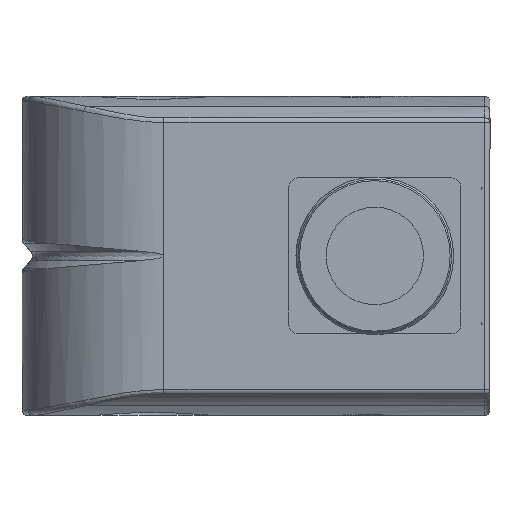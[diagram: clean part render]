
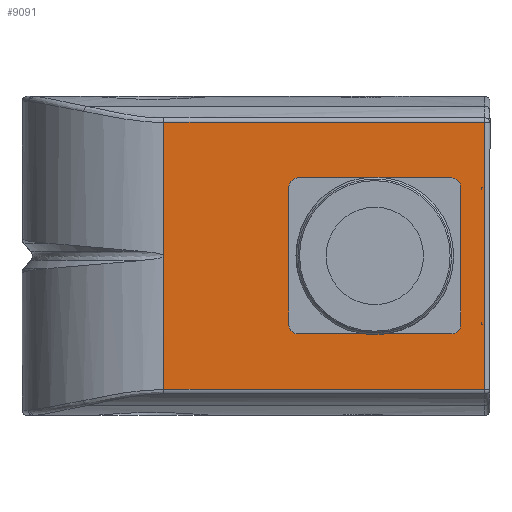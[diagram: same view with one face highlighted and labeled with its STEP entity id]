
A CAD part, left-side view. The second image highlights one B-rep face of the part: STEP entity #9091.
In plain terms, the highlighted planar face has unit normal (-1, 0, 0).
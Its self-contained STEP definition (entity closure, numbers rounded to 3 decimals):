
#915=CARTESIAN_POINT('',(-31.261,3.429,-13.78));
#916=VERTEX_POINT('',#915);
#917=CARTESIAN_POINT('',(-31.261,3.429,-5.98));
#918=VERTEX_POINT('',#917);
#919=CARTESIAN_POINT('',(-31.261,3.429,-13.78));
#920=DIRECTION('',(0.0,0.0,1.0));
#921=VECTOR('',#920,7.8);
#922=LINE('',#919,#921);
#923=EDGE_CURVE('',#916,#918,#922,.T.);
#957=CARTESIAN_POINT('',(-31.261,-6.271,-5.98));
#958=VERTEX_POINT('',#957);
#973=CARTESIAN_POINT('',(-31.261,-6.271,-13.78));
#974=VERTEX_POINT('',#973);
#981=CARTESIAN_POINT('',(-31.261,-6.271,-5.98));
#982=DIRECTION('',(0.0,0.0,-1.0));
#983=VECTOR('',#982,7.8);
#984=LINE('',#981,#983);
#985=EDGE_CURVE('',#958,#974,#984,.T.);
#1058=CARTESIAN_POINT('',(-31.261,2.929,-5.48));
#1059=VERTEX_POINT('',#1058);
#1066=CARTESIAN_POINT('',(-31.261,2.929,-5.98));
#1067=DIRECTION('',(1.0,0.0,0.0));
#1068=DIRECTION('',(0.0,-1.0,0.0));
#1069=AXIS2_PLACEMENT_3D('',#1066,#1067,#1068);
#1070=CIRCLE('',#1069,0.5);
#1071=EDGE_CURVE('',#918,#1059,#1070,.T.);
#1082=CARTESIAN_POINT('',(-31.261,-5.771,-5.48));
#1083=VERTEX_POINT('',#1082);
#1084=CARTESIAN_POINT('',(-31.261,-5.771,-5.98));
#1085=DIRECTION('',(1.0,0.0,0.0));
#1086=DIRECTION('',(0.0,-1.0,0.0));
#1087=AXIS2_PLACEMENT_3D('',#1084,#1085,#1086);
#1088=CIRCLE('',#1087,0.5);
#1089=EDGE_CURVE('',#1083,#958,#1088,.T.);
#1106=CARTESIAN_POINT('',(-31.261,2.929,-5.48));
#1107=DIRECTION('',(0.0,-1.0,0.0));
#1108=VECTOR('',#1107,8.7);
#1109=LINE('',#1106,#1108);
#1110=EDGE_CURVE('',#1059,#1083,#1109,.T.);
#1123=CARTESIAN_POINT('',(-31.261,2.929,-14.28));
#1124=VERTEX_POINT('',#1123);
#1133=CARTESIAN_POINT('',(-31.261,2.929,-13.78));
#1134=DIRECTION('',(1.0,0.0,0.0));
#1135=DIRECTION('',(0.0,-1.0,0.0));
#1136=AXIS2_PLACEMENT_3D('',#1133,#1134,#1135);
#1137=CIRCLE('',#1136,0.5);
#1138=EDGE_CURVE('',#1124,#916,#1137,.T.);
#1150=CARTESIAN_POINT('',(-31.261,-5.771,-14.28));
#1151=VERTEX_POINT('',#1150);
#1158=CARTESIAN_POINT('',(-31.261,-5.771,-13.78));
#1159=DIRECTION('',(1.0,0.0,0.0));
#1160=DIRECTION('',(0.0,-1.0,0.0));
#1161=AXIS2_PLACEMENT_3D('',#1158,#1159,#1160);
#1162=CIRCLE('',#1161,0.5);
#1163=EDGE_CURVE('',#974,#1151,#1162,.T.);
#1174=CARTESIAN_POINT('',(-31.261,-5.771,-14.28));
#1175=DIRECTION('',(0.0,1.0,0.0));
#1176=VECTOR('',#1175,8.7);
#1177=LINE('',#1174,#1176);
#1178=EDGE_CURVE('',#1151,#1124,#1177,.T.);
#2442=CARTESIAN_POINT('',(-31.261,-7.421,-6.116));
#2443=VERTEX_POINT('',#2442);
#2526=CARTESIAN_POINT('',(-31.261,-7.421,-13.644));
#2527=VERTEX_POINT('',#2526);
#2534=CARTESIAN_POINT('',(-31.261,-7.421,-13.744));
#2535=VERTEX_POINT('',#2534);
#2536=CARTESIAN_POINT('',(-31.261,-7.421,-13.644));
#2537=DIRECTION('',(0.0,0.0,-1.0));
#2538=VECTOR('',#2537,0.1);
#2539=LINE('',#2536,#2538);
#2540=EDGE_CURVE('',#2535,#2527,#2539,.F.);
#2626=CARTESIAN_POINT('',(-31.261,-7.421,-6.016));
#2627=VERTEX_POINT('',#2626);
#2634=CARTESIAN_POINT('',(-31.261,-7.421,-6.016));
#2635=DIRECTION('',(0.0,0.0,-1.0));
#2636=VECTOR('',#2635,0.1);
#2637=LINE('',#2634,#2636);
#2638=EDGE_CURVE('',#2443,#2627,#2637,.F.);
#2650=CARTESIAN_POINT('',(-31.261,-7.521,-13.744));
#2651=VERTEX_POINT('',#2650);
#2665=CARTESIAN_POINT('',(-31.261,-7.521,-13.744));
#2666=DIRECTION('',(0.0,1.0,0.0));
#2667=VECTOR('',#2666,0.1);
#2668=LINE('',#2665,#2667);
#2669=EDGE_CURVE('',#2651,#2535,#2668,.T.);
#5303=CARTESIAN_POINT('',(-31.261,-7.621,-2.342));
#5304=VERTEX_POINT('',#5303);
#5419=CARTESIAN_POINT('',(-31.261,-7.621,-17.419));
#5420=VERTEX_POINT('',#5419);
#5443=CARTESIAN_POINT('',(-31.261,10.479,-17.419));
#5444=VERTEX_POINT('',#5443);
#5461=CARTESIAN_POINT('',(-31.261,-7.621,-17.419));
#5462=DIRECTION('',(0.0,1.0,0.0));
#5463=VECTOR('',#5462,18.1);
#5464=LINE('',#5461,#5463);
#5465=EDGE_CURVE('',#5420,#5444,#5464,.T.);
#6331=CARTESIAN_POINT('',(-31.261,10.479,-2.342));
#6332=VERTEX_POINT('',#6331);
#6340=CARTESIAN_POINT('',(-31.261,10.479,-2.342));
#6341=DIRECTION('',(0.0,-1.0,0.0));
#6342=VECTOR('',#6341,18.1);
#6343=LINE('',#6340,#6342);
#6344=EDGE_CURVE('',#6332,#5304,#6343,.T.);
#6555=CARTESIAN_POINT('',(-31.261,10.479,-9.896));
#6556=VERTEX_POINT('',#6555);
#6557=CARTESIAN_POINT('',(-31.261,10.479,-17.419));
#6558=DIRECTION('',(0.0,0.0,1.0));
#6559=VECTOR('',#6558,7.523);
#6560=LINE('',#6557,#6559);
#6561=EDGE_CURVE('',#5444,#6556,#6560,.T.);
#6613=CARTESIAN_POINT('',(-31.261,-7.521,-6.016));
#6614=VERTEX_POINT('',#6613);
#6623=CARTESIAN_POINT('',(-31.261,-7.421,-6.016));
#6624=DIRECTION('',(0.0,-1.0,0.0));
#6625=VECTOR('',#6624,0.1);
#6626=LINE('',#6623,#6625);
#6627=EDGE_CURVE('',#2627,#6614,#6626,.T.);
#6681=CARTESIAN_POINT('',(-31.261,10.479,-9.865));
#6682=VERTEX_POINT('',#6681);
#6698=CARTESIAN_POINT('',(-31.261,10.479,-9.865));
#6699=DIRECTION('',(0.0,0.0,1.0));
#6700=VECTOR('',#6699,7.523);
#6701=LINE('',#6698,#6700);
#6702=EDGE_CURVE('',#6682,#6332,#6701,.T.);
#7412=CARTESIAN_POINT('',(-31.261,10.479,-9.865));
#7413=CARTESIAN_POINT('',(-31.261,10.478,-9.866));
#7414=CARTESIAN_POINT('',(-31.261,10.478,-9.867));
#7415=CARTESIAN_POINT('',(-31.261,10.476,-9.872));
#7416=CARTESIAN_POINT('',(-31.261,10.475,-9.876));
#7417=CARTESIAN_POINT('',(-31.261,10.475,-9.884));
#7418=CARTESIAN_POINT('',(-31.261,10.476,-9.889));
#7419=CARTESIAN_POINT('',(-31.261,10.478,-9.894));
#7420=CARTESIAN_POINT('',(-31.261,10.478,-9.895));
#7421=CARTESIAN_POINT('',(-31.261,10.479,-9.896));
#7422=B_SPLINE_CURVE_WITH_KNOTS('',3,(#7412,#7413,#7414,#7415,#7416,#7417,#7418,#7419,#7420,#7421),.UNSPECIFIED.,.F.,.U.,(4,2,2,2,4),(0.313,0.313,0.314,0.316,0.316),.UNSPECIFIED.);
#7423=EDGE_CURVE('',#6682,#6556,#7422,.T.);
#8829=CARTESIAN_POINT('',(-31.261,-7.621,-2.342));
#8830=DIRECTION('',(0.0,0.0,-1.0));
#8831=VECTOR('',#8830,15.077);
#8832=LINE('',#8829,#8831);
#8833=EDGE_CURVE('',#5304,#5420,#8832,.T.);
#8871=CARTESIAN_POINT('',(-31.261,-7.521,-13.744));
#8872=DIRECTION('',(0.0,0.707,0.707));
#8873=VECTOR('',#8872,0.141);
#8874=LINE('',#8871,#8873);
#8875=EDGE_CURVE('',#2651,#2527,#8874,.T.);
#9046=CARTESIAN_POINT('',(-31.261,-7.421,-6.116));
#9047=DIRECTION('',(0.0,-0.707,0.707));
#9048=VECTOR('',#9047,0.141);
#9049=LINE('',#9046,#9048);
#9050=EDGE_CURVE('',#2443,#6614,#9049,.T.);
#9058=CARTESIAN_POINT('',(-31.261,-7.921,-2.48));
#9059=DIRECTION('',(-1.0,0.0,0.0));
#9060=DIRECTION('',(0.0,1.0,0.0));
#9061=AXIS2_PLACEMENT_3D('',#9058,#9059,#9060);
#9062=PLANE('',#9061);
#9063=ORIENTED_EDGE('',*,*,#8833,.F.);
#9064=ORIENTED_EDGE('',*,*,#6344,.F.);
#9065=ORIENTED_EDGE('',*,*,#6702,.F.);
#9066=ORIENTED_EDGE('',*,*,#7423,.T.);
#9067=ORIENTED_EDGE('',*,*,#6561,.F.);
#9068=ORIENTED_EDGE('',*,*,#5465,.F.);
#9069=EDGE_LOOP('',(#9063,#9064,#9065,#9066,#9067,#9068));
#9070=FACE_OUTER_BOUND('',#9069,.T.);
#9071=ORIENTED_EDGE('',*,*,#2638,.T.);
#9072=ORIENTED_EDGE('',*,*,#6627,.T.);
#9073=ORIENTED_EDGE('',*,*,#9050,.F.);
#9074=EDGE_LOOP('',(#9071,#9072,#9073));
#9075=FACE_BOUND('',#9074,.T.);
#9076=ORIENTED_EDGE('',*,*,#985,.T.);
#9077=ORIENTED_EDGE('',*,*,#1163,.T.);
#9078=ORIENTED_EDGE('',*,*,#1178,.T.);
#9079=ORIENTED_EDGE('',*,*,#1138,.T.);
#9080=ORIENTED_EDGE('',*,*,#923,.T.);
#9081=ORIENTED_EDGE('',*,*,#1071,.T.);
#9082=ORIENTED_EDGE('',*,*,#1110,.T.);
#9083=ORIENTED_EDGE('',*,*,#1089,.T.);
#9084=EDGE_LOOP('',(#9076,#9077,#9078,#9079,#9080,#9081,#9082,#9083));
#9085=FACE_BOUND('',#9084,.T.);
#9086=ORIENTED_EDGE('',*,*,#8875,.F.);
#9087=ORIENTED_EDGE('',*,*,#2669,.T.);
#9088=ORIENTED_EDGE('',*,*,#2540,.T.);
#9089=EDGE_LOOP('',(#9086,#9087,#9088));
#9090=FACE_BOUND('',#9089,.T.);
#9091=ADVANCED_FACE('',(#9070,#9075,#9085,#9090),#9062,.T.);
